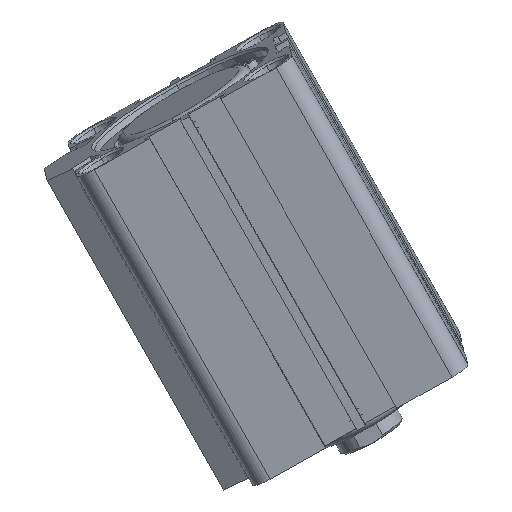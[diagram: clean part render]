
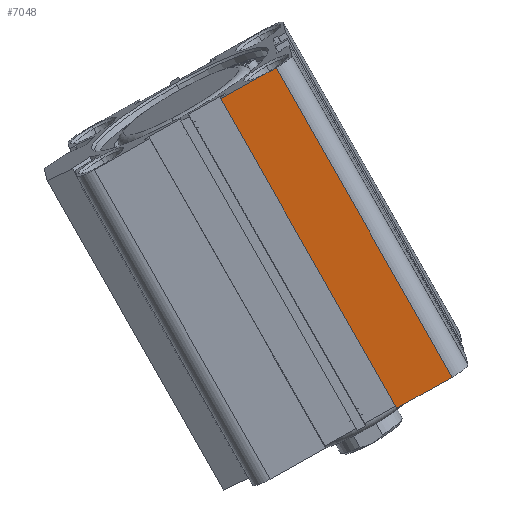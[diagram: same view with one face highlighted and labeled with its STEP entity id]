
A CAD part, left-side view. The second image highlights one B-rep face of the part: STEP entity #7048.
In plain terms, the highlighted planar face has unit normal (-0.987, -0.042, -0.158) as drawn and (-1, 0, 0) by its records, which use the part's own axes.
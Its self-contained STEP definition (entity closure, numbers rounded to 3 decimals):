
#209 = VERTEX_POINT ( 'NONE', #19202 ) ;
#463 = DIRECTION ( 'NONE',  ( 0., 1., 0. ) ) ;
#474 = LINE ( 'NONE', #6163, #835 ) ;
#835 = VECTOR ( 'NONE', #17136, 1000. ) ;
#840 = DIRECTION ( 'NONE',  ( -1., 0., 0. ) ) ;
#1147 = VECTOR ( 'NONE', #15267, 1000. ) ;
#1478 = EDGE_CURVE ( 'NONE', #19358, #7348, #474, .T. ) ;
#1923 = CARTESIAN_POINT ( 'NONE',  ( -26., -22., 76. ) ) ;
#2215 = CARTESIAN_POINT ( 'NONE',  ( -26., 0., 76. ) ) ;
#2438 = DIRECTION ( 'NONE',  ( 0., 0., 1. ) ) ;
#3876 = EDGE_LOOP ( 'NONE', ( #4414, #6710, #4479, #10073 ) ) ;
#4414 = ORIENTED_EDGE ( 'NONE', *, *, #1478, .F. ) ;
#4479 = ORIENTED_EDGE ( 'NONE', *, *, #8889, .T. ) ;
#5493 = PLANE ( 'NONE',  #19155 ) ;
#6163 = CARTESIAN_POINT ( 'NONE',  ( -26., 0., 0. ) ) ;
#6555 = DIRECTION ( 'NONE',  ( 0., 0., -1. ) ) ;
#6710 = ORIENTED_EDGE ( 'NONE', *, *, #16339, .F. ) ;
#7048 = ADVANCED_FACE ( 'NONE', ( #17958 ), #5493, .T. ) ;
#7348 = VERTEX_POINT ( 'NONE', #7678 ) ;
#7678 = CARTESIAN_POINT ( 'NONE',  ( -26., -8.6, 0. ) ) ;
#8158 = LINE ( 'NONE', #19790, #1147 ) ;
#8246 = CARTESIAN_POINT ( 'NONE',  ( -26., -22., 76. ) ) ;
#8889 = EDGE_CURVE ( 'NONE', #10531, #209, #15093, .T. ) ;
#9907 = LINE ( 'NONE', #1923, #17149 ) ;
#10073 = ORIENTED_EDGE ( 'NONE', *, *, #15468, .T. ) ;
#10531 = VERTEX_POINT ( 'NONE', #8246 ) ;
#14867 = VECTOR ( 'NONE', #463, 1000. ) ;
#15093 = LINE ( 'NONE', #2215, #14867 ) ;
#15116 = CARTESIAN_POINT ( 'NONE',  ( -26., 0., 76. ) ) ;
#15267 = DIRECTION ( 'NONE',  ( 0., 0., -1. ) ) ;
#15468 = EDGE_CURVE ( 'NONE', #209, #7348, #8158, .T. ) ;
#16339 = EDGE_CURVE ( 'NONE', #10531, #19358, #9907, .T. ) ;
#17136 = DIRECTION ( 'NONE',  ( 0., 1., 0. ) ) ;
#17149 = VECTOR ( 'NONE', #6555, 1000. ) ;
#17731 = CARTESIAN_POINT ( 'NONE',  ( -26., -22., 0. ) ) ;
#17958 = FACE_OUTER_BOUND ( 'NONE', #3876, .T. ) ;
#19155 = AXIS2_PLACEMENT_3D ( 'NONE', #15116, #840, #2438 ) ;
#19202 = CARTESIAN_POINT ( 'NONE',  ( -26., -8.6, 76. ) ) ;
#19358 = VERTEX_POINT ( 'NONE', #17731 ) ;
#19790 = CARTESIAN_POINT ( 'NONE',  ( -26., -8.6, 76. ) ) ;
